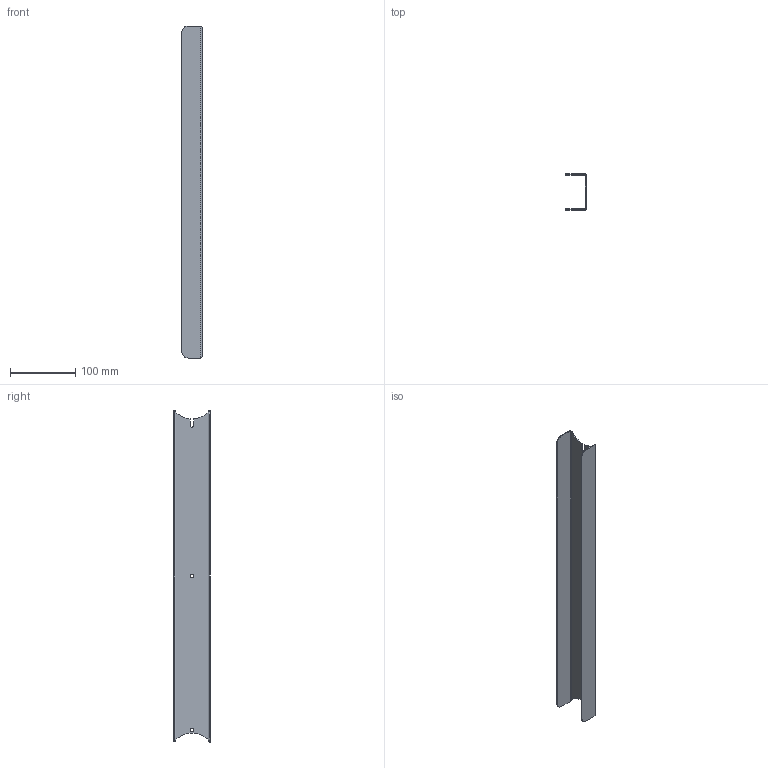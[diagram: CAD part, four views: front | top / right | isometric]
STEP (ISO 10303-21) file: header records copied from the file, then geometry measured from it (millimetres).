
FILE_DESCRIPTION( ( 'Unknown' ), '1' );
FILE_NAME( 'F:/navkite transat/construction/2016/3D ET ASSEMBLAGES/desal/DES 26.stp', 'Unknown', ( 'GMA' ), ( 'Unknown' ), 'XStep 1.0', 'Unknown', ' ' );
FILE_SCHEMA( ( 'automotive_design' ) );
Length unit declared in the file: millimetre
Products named in the file (1): 1
Bounding box: 31.5 x 55 x 507.13 mm (x, y, z)
Volume: 84097 mm3; surface area: 114074.1 mm2
Topology: 1 solids, 1 shells, 36 faces, 86 edges, 52 vertices
Faces by surface type: cylinder 14, plane 14, bspline 8
Full cylindrical faces by diameter (mm): 5.5 x2
Entity records: 1468 total; most frequent: CARTESIAN_POINT 373, ORIENTED_EDGE 168, DIRECTION 146, EDGE_CURVE 84, VERTEX_POINT 52, AXIS2_PLACEMENT_3D 49, LINE 48, VECTOR 48
